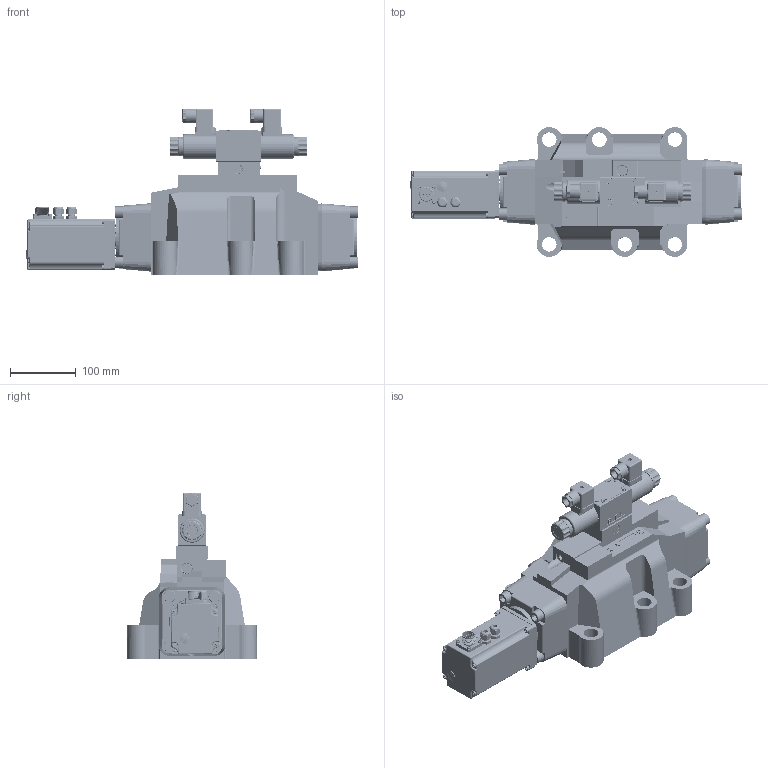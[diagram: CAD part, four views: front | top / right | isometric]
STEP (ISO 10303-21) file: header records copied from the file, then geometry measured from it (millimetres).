
FILE_DESCRIPTION(/* description */ (''),/* implementation_level */ '2;1');
FILE_NAME(/* name */ '4WRKE32-3XJ.stp',/* time_stamp */ '2022-12-15T14:04:26+08:00',/* author */ (''),/* organization */ (''),/* preprocessor_version */ 'ST-DEVELOPER v16.7',/* originating_system */ 'SIEMENS PLM Software NX 12.0',/* authorisation */ '');
FILE_SCHEMA (('AUTOMOTIVE_DESIGN { 1 0 10303 214 3 1 1 1 }'));
Products named in the file (1): 4WRKE32
Bounding box: 503.98 x 197 x 253.1 mm (x, y, z)
Volume: 1368452.7 mm3; surface area: 749277.7 mm2
Topology: 92 solids, 93 shells, 4020 faces, 10226 edges, 6462 vertices
Faces by surface type: plane 1789, cylinder 1345, cone 248, bspline 225, torus 219, sphere 149, extrusion 40, revolution 5
Full cylindrical faces by diameter (mm): 0.6 x1, 1 x2, 1.2 x1, 1.5 x11, 1.8 x10, 2 x10, 2.3 x2, 2.5 x4, 3 x6, 3.2 x4, 3.3 x8, 3.5 x4, 4 x4, 4.2 x44, 5 x106, 5.3 x4, 5.4 x6, 5.5 x4, 6 x12, 6.5 x4, 7 x8, 7.8 x1, 8 x5, 8.2 x1, 8.5 x5, 9 x2, 9.4 x4, 10 x5, 10.3 x1, 10.5 x8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
Entity records: 258073 total; most frequent: CARTESIAN_POINT 168354, ORIENTED_EDGE 16610, DIRECTION 15773, EDGE_CURVE 8305, AXIS2_PLACEMENT_3D 5943, VERTEX_POINT 5565, EDGE_LOOP 4574, VECTOR 3882
